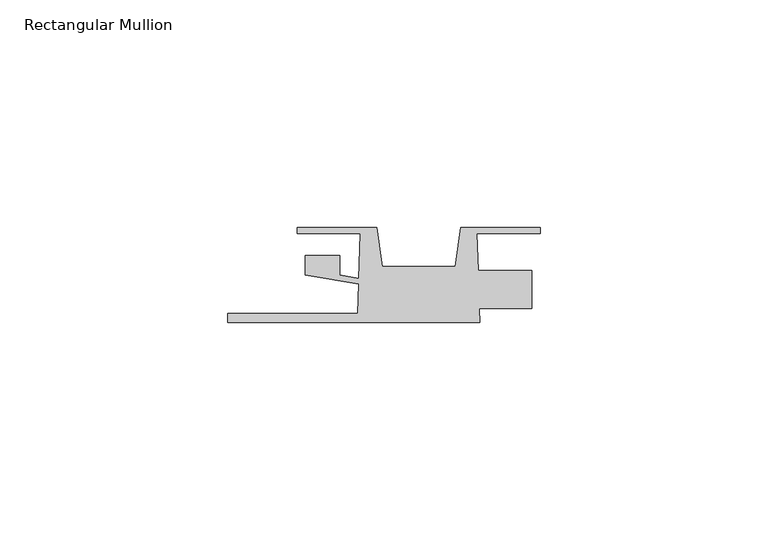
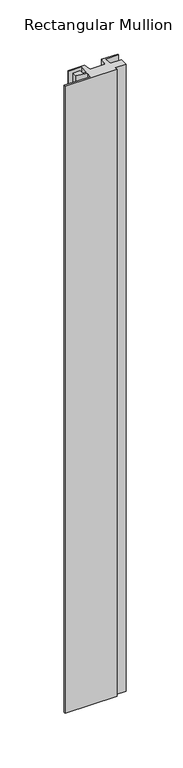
"""IFC4 building model written with IfcOpenShell, lengths in millimetres: member geometry, Rectangular Mullion : QuickPanel-Reveal_Projecting-Window-Jamb-Trim-Right."""

from ifc_helpers import new_model, si_unit, frame, origin, place, context, project, spatial, polyline, outline, extrude, source, transform, mapped, element, save


def rectangular_mullion_c74983ad(model_context):
    return source(origin(), model_context, "Body", "SweptSolid", [
        extrude(outline(polyline([(13.4553134, -8.6293878), (-41.8284595, -8.6293878), (-41.8284595, -6.6935423), (-13.3749872, -6.6935423), (-13.1482736, -0.2013141), (-24.8382072, 1.8027151), (-24.8382072, 6.096), (-17.2623469, 6.096), (-17.2623469, 1.7924942), (-13.1035451, 1.0795423), (-12.7595465, 10.9303752), (-26.5896522, 10.9303752), (-26.5896522, 12.1803727), (-9.1947632, 12.1803727), (-8.0060455, 3.7222065), (8.0060455, 3.7222065), (9.1947632, 12.1803727), (26.6286248, 12.1803727), (26.6286248, 10.9303752), (12.7722714, 10.9303752), (13.0573446, 2.766947), (24.8465405, 2.766947), (24.8465405, -5.5019641), (13.3461013, -5.5019641), (13.4553134, -8.6293878)])), frame((0.0, 0.0, -708.7639248), z_axis=(0.0, 0.0, 1.0), x_axis=(1.0, 0.0, 0.0)), (0.0, 0.0, 1.0), 708.7639248),
    ])


if __name__ == "__main__":
    model = new_model("IFC4")
    model_context = context("Model", 3, world=origin())
    ifc_project = project(units=[si_unit("LENGTHUNIT", "METRE", prefix="MILLI")], contexts=[model_context])
    site = spatial("IfcSite", under=ifc_project)
    building = spatial("IfcBuilding", under=site)
    placement = place(None, origin())
    rectangular_mullion_shape = rectangular_mullion_c74983ad(model_context)
    element("IfcMember", 1, ObjectType="Rectangular Mullion : QuickPanel-Reveal_Projecting-Window-Jamb-Trim-Right", at=placement, inside=building, context=model_context, shape_type="MappedRepresentation", body=[
        mapped(rectangular_mullion_shape, transform((0.0, 0.0, 0.0), x_axis=(1.0, 0.0, 0.0), y_axis=(0.0, 1.0, 0.0), z_axis=(0.0, 0.0, 1.0))),
    ])
    save(model, "model.ifc")
